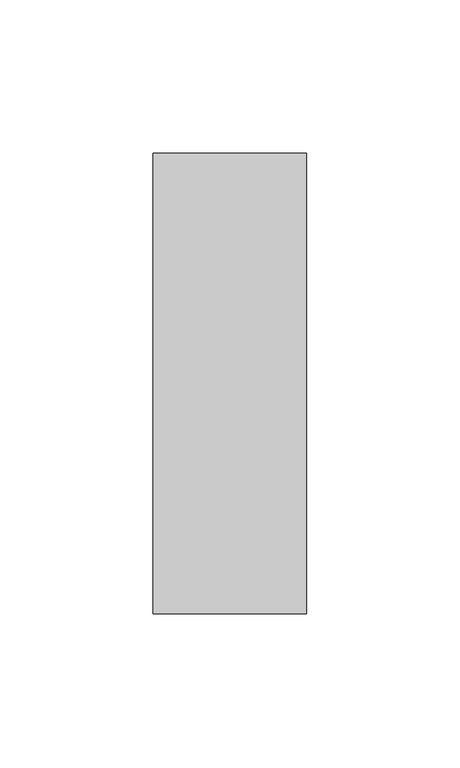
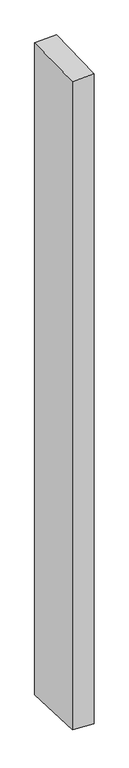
"""IFC4 building model written with IfcOpenShell, lengths in millimetres: member geometry, Прямоугольный импост : 50 x 150 мм."""

from ifc_helpers import new_model, si_unit, origin, place, context, project, spatial, faceted_brep, source, transform, mapped, element, save


def member_69f7c417(model_context):
    return source(origin(), model_context, "Body", "Brep", [
        faceted_brep([(-25.0, 75.0, 0.7291334), (25.0, 75.0, 2.530434), (25.0, 75.0, -1587.2429389), (-25.0, 75.0, -1585.0707815), (-25.0, -75.0, -2.530434), (-25.0, -75.0, -1579.3568189), (25.0, -75.0, -0.7291334), (25.0, -75.0, -1581.5289763)], [[[0, 1, 2, 3]], [[4, 0, 3, 5]], [[6, 4, 5, 7]], [[1, 6, 7, 2]], [[1, 0, 4, 6]], [[2, 7, 5, 3]]]),
    ])


if __name__ == "__main__":
    model = new_model("IFC4")
    model_context = context("Model", 3, world=origin())
    ifc_project = project(units=[si_unit("LENGTHUNIT", "METRE", prefix="MILLI")], contexts=[model_context])
    site = spatial("IfcSite", under=ifc_project)
    building = spatial("IfcBuilding", under=site)
    placement = place(None, origin())
    member_shape = member_69f7c417(model_context)
    element("IfcMember", 1, ObjectType="Прямоугольный импост : 50 x 150 мм", at=placement, inside=building, context=model_context, shape_type="MappedRepresentation", body=[
        mapped(member_shape, transform((0.0, 0.0, 0.0), x_axis=(1.0, 0.0, 0.0), y_axis=(0.0, 1.0, 0.0), z_axis=(0.0, 0.0, 1.0))),
    ])
    save(model, "model.ifc")
